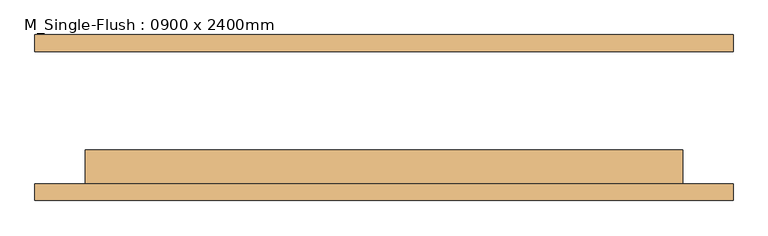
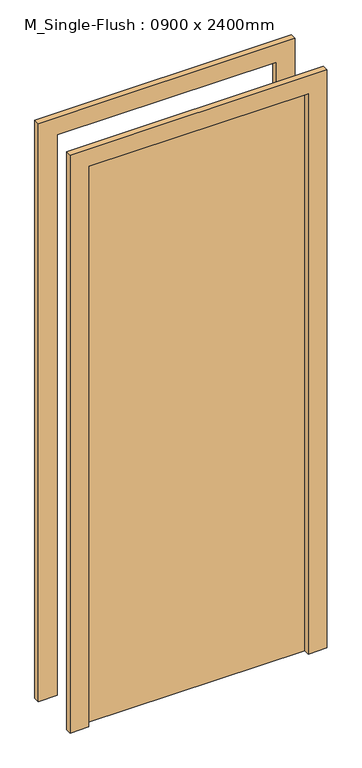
"""IFC4 building model written with IfcOpenShell, lengths in millimetres: door geometry, M_Single-Flush : 0900 x 2400mm."""

from ifc_helpers import new_model, si_unit, frame, origin, origin_with_axes, place, context, project, spatial, polyline, outline, extrude, source, transform, mapped, element, save


def m_single_flush_0900_x_2400mm_06beea5e(model_context):
    return source(origin(), model_context, "Body", "SweptSolid", [
        extrude(outline(polyline([(450.0, -49.0), (450.0, -100.0), (-450.0, -100.0), (-450.0, -49.0), (450.0, -49.0)])), origin_with_axes(), (0.0, 0.0, 1.0), 2425.0),
        extrude(outline(polyline([(2501.0, -526.0), (0.0, -526.0), (0.0, -450.0), (2425.0, -450.0), (2425.0, 450.0), (0.0, 450.0), (0.0, 526.0), (2501.0, 526.0), (2501.0, -526.0)])), frame((0.0, -125.0, 0.0), z_axis=(0.0, 1.0, 0.0), x_axis=(0.0, 0.0, 1.0)), (0.0, 0.0, 1.0), 25.0),
        extrude(outline(polyline([(2501.0, 526.0), (2501.0, -526.0), (0.0, -526.0), (0.0, -450.0), (2425.0, -450.0), (2425.0, 450.0), (0.0, 450.0), (0.0, 526.0), (2501.0, 526.0)])), frame((0.0, 100.0, 0.0), z_axis=(0.0, 1.0, 0.0), x_axis=(0.0, 0.0, 1.0)), (0.0, 0.0, 1.0), 25.0),
    ])


if __name__ == "__main__":
    model = new_model("IFC4")
    model_context = context("Model", 3, world=origin())
    ifc_project = project(units=[si_unit("LENGTHUNIT", "METRE", prefix="MILLI")], contexts=[model_context])
    site = spatial("IfcSite", under=ifc_project)
    building = spatial("IfcBuilding", under=site)
    placement = place(None, origin())
    m_single_flush_0900_x_2400mm_shape = m_single_flush_0900_x_2400mm_06beea5e(model_context)
    element("IfcDoor", 1, ObjectType="M_Single-Flush : 0900 x 2400mm", at=placement, inside=building, context=model_context, shape_type="MappedRepresentation", body=[
        mapped(m_single_flush_0900_x_2400mm_shape, transform((0.0, 0.0, 0.0), x_axis=(1.0, 0.0, 0.0), y_axis=(0.0, 1.0, 0.0), z_axis=(0.0, 0.0, 1.0))),
    ])
    save(model, "model.ifc")
